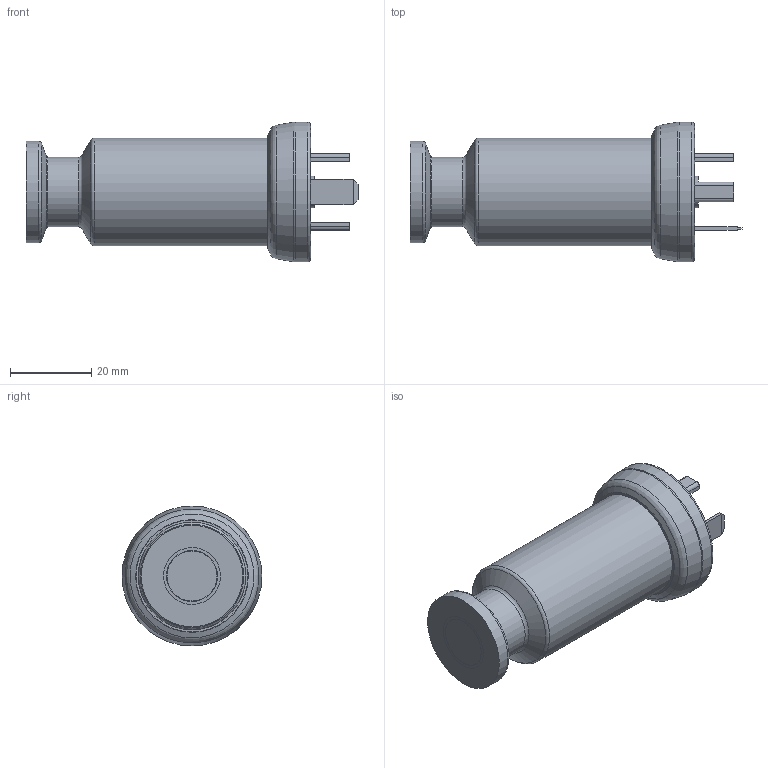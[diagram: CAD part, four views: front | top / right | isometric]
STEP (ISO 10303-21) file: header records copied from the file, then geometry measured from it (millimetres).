
FILE_DESCRIPTION(/* description */ (''),/* implementation_level */ '2;1');
FILE_NAME(/* name */ 'C:\Users\cz1166\Documents\STEP\DMP331P-50x-xxxx-x-x-100-C68-1-x-x-000.stp',/* time_stamp */ '2022-03-22T10:40:46+01:00',/* author */ ('cz1166'),/* organization */ (''),/* preprocessor_version */ 'ST-DEVELOPER v18.1',/* originating_system */ 'Autodesk Inventor 2021',/* authorisation */ '');
FILE_SCHEMA (('AUTOMOTIVE_DESIGN { 1 0 10303 214 3 1 1 }'));
Length unit declared in the file: millimetre
Products named in the file (1): DMP331P-50x-xxxx-x-x-100-C68-1-x-x-000
Bounding box: 81.83 x 34.5 x 34.5 mm (x, y, z)
Volume: 38739.5 mm3; surface area: 8336 mm2
Topology: 1 solids, 1 shells, 67 faces, 167 edges, 110 vertices
Faces by surface type: plane 42, cylinder 12, torus 9, cone 4
Full cylindrical faces by diameter (mm): 7.8 x1, 14 x1, 17.2 x1, 25 x1, 26.5 x1, 34.5 x1
Entity records: 2110 total; most frequent: DIRECTION 362, CARTESIAN_POINT 345, ORIENTED_EDGE 334, EDGE_CURVE 167, AXIS2_PLACEMENT_3D 127, VERTEX_POINT 110, LINE 108, VECTOR 108
